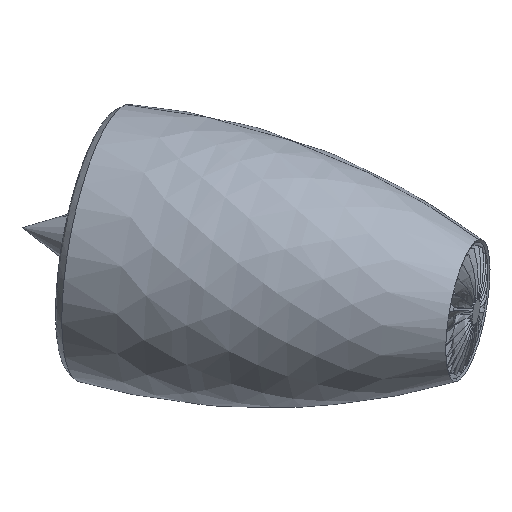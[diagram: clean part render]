
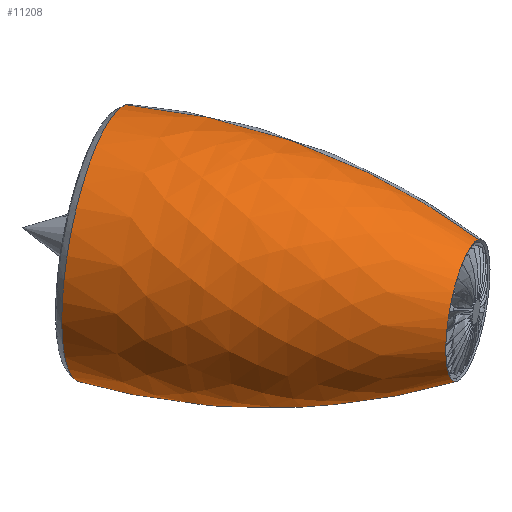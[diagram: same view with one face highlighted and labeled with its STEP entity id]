
A CAD part, isometric view. The second image highlights one B-rep face of the part: STEP entity #11208.
In plain terms, the highlighted face is a revolution surface.
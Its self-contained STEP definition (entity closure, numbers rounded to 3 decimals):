
#10567=CARTESIAN_POINT('Vertex',(52.861,-581.07,96.762)) ;
#10569=CARTESIAN_POINT('Vertex',(-52.861,-581.07,-96.762)) ;
#10598=CARTESIAN_POINT('Axis2P3D Location',(0.,-581.07,0.)) ;
#11103=CARTESIAN_POINT('Vertex',(103.011,0.,188.56)) ;
#11110=CARTESIAN_POINT('Vertex',(-103.011,0.,-188.56)) ;
#11145=CARTESIAN_POINT('Axis2P3D Location',(0.,0.,0.)) ;
#11169=CARTESIAN_POINT('Control Point',(103.011,0.,188.56)) ;
#11170=CARTESIAN_POINT('Control Point',(108.243,-119.025,198.138)) ;
#11171=CARTESIAN_POINT('Control Point',(105.785,-239.521,193.639)) ;
#11172=CARTESIAN_POINT('Control Point',(95.508,-358.604,174.826)) ;
#11173=CARTESIAN_POINT('Control Point',(77.665,-473.323,142.166)) ;
#11174=CARTESIAN_POINT('Control Point',(52.861,-581.07,96.762)) ;
#11177=CARTESIAN_POINT('Control Point',(-103.011,0.,-188.56)) ;
#11178=CARTESIAN_POINT('Control Point',(-108.243,-119.025,-198.138)) ;
#11179=CARTESIAN_POINT('Control Point',(-105.785,-239.521,-193.639)) ;
#11180=CARTESIAN_POINT('Control Point',(-95.508,-358.604,-174.826)) ;
#11181=CARTESIAN_POINT('Control Point',(-77.665,-473.323,-142.166)) ;
#11182=CARTESIAN_POINT('Control Point',(-52.861,-581.07,-96.762)) ;
#11192=CARTESIAN_POINT('Control Point',(0.,0.,214.863)) ;
#11193=CARTESIAN_POINT('Control Point',(0.,-119.025,225.777)) ;
#11194=CARTESIAN_POINT('Control Point',(0.,-239.521,220.65)) ;
#11195=CARTESIAN_POINT('Control Point',(0.,-358.604,199.213)) ;
#11196=CARTESIAN_POINT('Control Point',(0.,-473.323,161.997)) ;
#11197=CARTESIAN_POINT('Control Point',(0.,-581.07,110.26)) ;
#11198=CARTESIAN_POINT('Axis1P Location',(0.,-280.775,0.)) ;
#10599=DIRECTION('Axis2P3D Direction',(0.,-1.,-0.)) ;
#11146=DIRECTION('Axis2P3D Direction',(0.,1.,0.)) ;
#11199=DIRECTION('Axis1P Direction',(0.,1.,0.)) ;
#10600=AXIS2_PLACEMENT_3D('Circle Axis2P3D',#10598,#10599,$) ;
#11147=AXIS2_PLACEMENT_3D('Circle Axis2P3D',#11145,#11146,$) ;
#11203=ORIENTED_EDGE('',*,*,#11149,.F.) ;
#11204=ORIENTED_EDGE('',*,*,#11183,.T.) ;
#11205=ORIENTED_EDGE('',*,*,#10602,.T.) ;
#11206=ORIENTED_EDGE('',*,*,#11175,.F.) ;
#11208=ADVANCED_FACE('PartBody',(#11207),#11201,.F.) ;
#11200=AXIS1_PLACEMENT('Revolution Surface Axis1P',#11198,#11199) ;
#11168=B_SPLINE_CURVE_WITH_KNOTS('',5,(#11169,#11170,#11171,#11172,#11173,#11174),.UNSPECIFIED.,.F.,.U.,(6,6),(1639.954,2237.575),.UNSPECIFIED.) ;
#11176=B_SPLINE_CURVE_WITH_KNOTS('',5,(#11177,#11178,#11179,#11180,#11181,#11182),.UNSPECIFIED.,.F.,.U.,(6,6),(1639.954,2237.575),.UNSPECIFIED.) ;
#11191=B_SPLINE_CURVE_WITH_KNOTS('',5,(#11192,#11193,#11194,#11195,#11196,#11197),.UNSPECIFIED.,.F.,.U.,(6,6),(1639.954,2237.575),.UNSPECIFIED.) ;
#10601=CIRCLE('generated circle',#10600,110.26) ;
#11148=CIRCLE('generated circle',#11147,214.863) ;
#10602=EDGE_CURVE('',#10570,#10568,#10601,.F.) ;
#11149=EDGE_CURVE('',#11111,#11104,#11148,.T.) ;
#11175=EDGE_CURVE('',#11104,#10568,#11168,.T.) ;
#11183=EDGE_CURVE('',#11111,#10570,#11176,.T.) ;
#11202=EDGE_LOOP('',(#11203,#11204,#11205,#11206)) ;
#11207=FACE_OUTER_BOUND('',#11202,.T.) ;
#11201=SURFACE_OF_REVOLUTION('Surface of Revolution',#11191,#11200) ;
#10568=VERTEX_POINT('',#10567) ;
#10570=VERTEX_POINT('',#10569) ;
#11104=VERTEX_POINT('',#11103) ;
#11111=VERTEX_POINT('',#11110) ;
